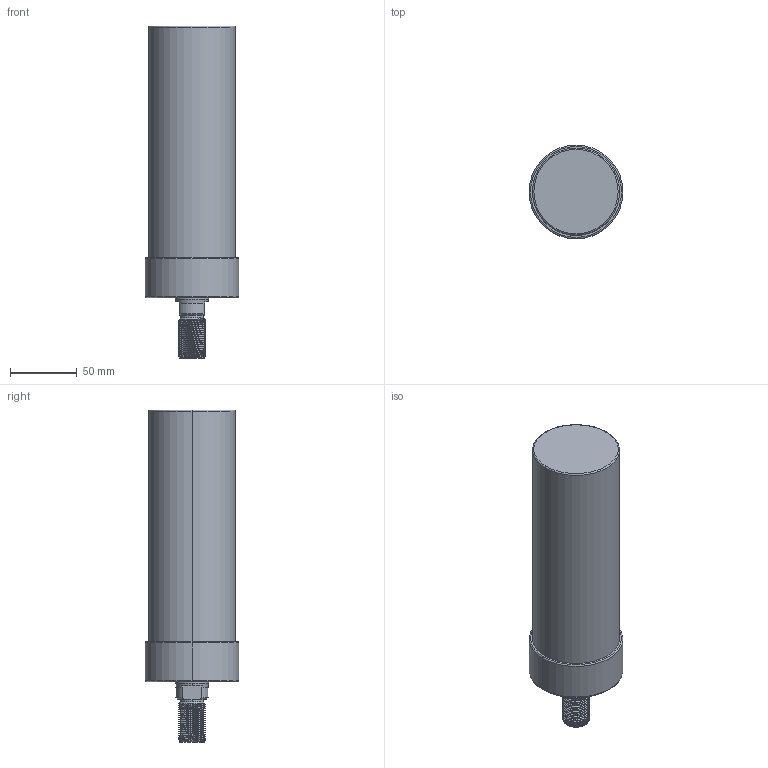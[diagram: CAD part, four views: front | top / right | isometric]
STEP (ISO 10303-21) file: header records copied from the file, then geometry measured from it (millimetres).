
FILE_DESCRIPTION (( 'STEP AP203' ), '1' );
FILE_NAME ('CLLU-065GT-140.STEP', '2020-01-16T02:21:04', ( '' ), ( '' ), 'SwSTEP 2.0', 'SolidWorks 2015', '' );
FILE_SCHEMA (( 'CONFIG_CONTROL_DESIGN' ));
Length unit declared in the file: millimetre
Products named in the file (1): CLLU-065GT-140
Bounding box: 70 x 70 x 248 mm (x, y, z)
Volume: 702284.9 mm3; surface area: 54741.8 mm2
Topology: 1 solids, 1 shells, 105 faces, 267 edges, 165 vertices
Faces by surface type: cylinder 60, cone 26, plane 11, torus 6, bspline 2
Entity records: 5360 total; most frequent: CARTESIAN_POINT 3002, ORIENTED_EDGE 518, DIRECTION 448, EDGE_CURVE 259, AXIS2_PLACEMENT_3D 180, VERTEX_POINT 165, EDGE_LOOP 114, FACE_OUTER_BOUND 105
